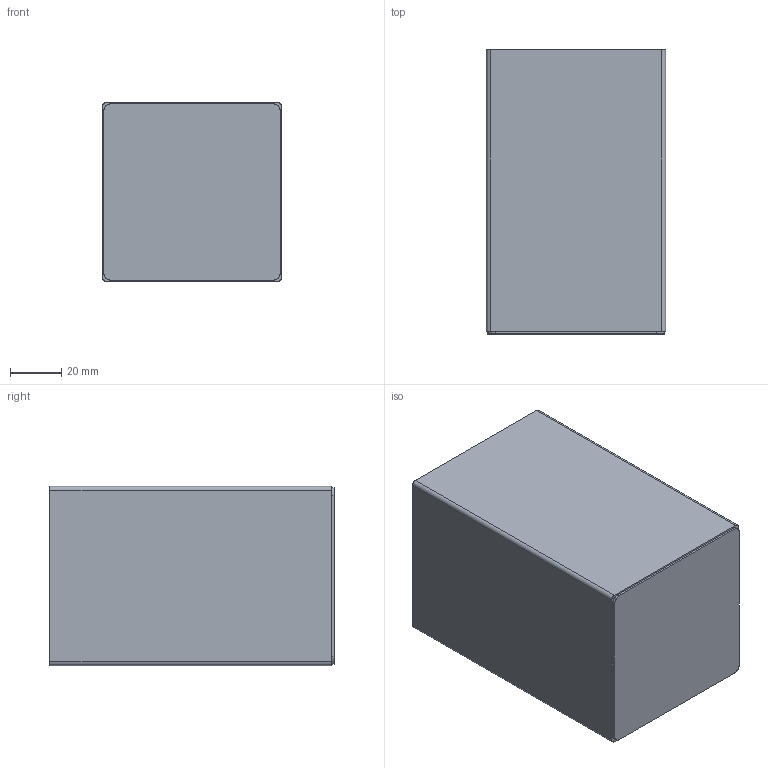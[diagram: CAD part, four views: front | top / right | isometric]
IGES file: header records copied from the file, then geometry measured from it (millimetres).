
Start section: SolidWorks IGES file using analytic representation for surfaces
Global section: file name: G:\Projects\New project\For Marketing\web files\POMD'OR\METRIC\387050###-W.IGS; native system: SolidWorks 2016; preprocessor: SolidWorks 2016; author: binli; date: 191010.121635; units: millimetre
Bounding box: 70 x 111 x 70 mm (x, y, z)
Surface area: 162795 mm2 (no closed solid volume)
Topology: 0 solids, 0 shells, 55 faces, 944 edges, 943 vertices
Faces by surface type: revolution 28, bspline 27
